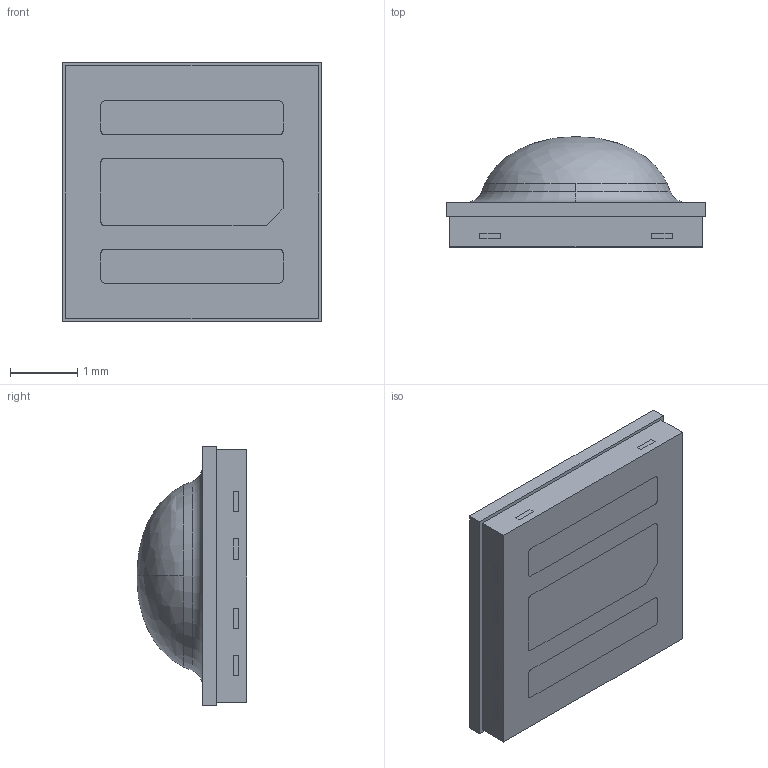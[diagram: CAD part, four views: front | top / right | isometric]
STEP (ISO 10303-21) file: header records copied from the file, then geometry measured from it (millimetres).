
FILE_DESCRIPTION (( 'STEP AP214' ), '1' );
FILE_NAME ('SFH 4716AS.STEP', '2020-07-29T12:01:49', ( '' ), ( '' ), 'SwSTEP 2.0', 'SolidWorks 2017', '' );
FILE_SCHEMA (( 'AUTOMOTIVE_DESIGN' ));
Length unit declared in the file: millimetre
Products named in the file (1): SFH 4716AS
Bounding box: 3.85 x 1.63 x 3.85 mm (x, y, z)
Volume: 13.6 mm3; surface area: 113 mm2
Topology: 6 solids, 6 shells, 180 faces, 520 edges, 346 vertices
Faces by surface type: plane 152, cylinder 22, bspline 2, torus 2, cone 2
Entity records: 6013 total; most frequent: CARTESIAN_POINT 1083, ORIENTED_EDGE 1040, DIRECTION 932, EDGE_CURVE 520, VECTOR 462, LINE 462, VERTEX_POINT 346, AXIS2_PLACEMENT_3D 235
